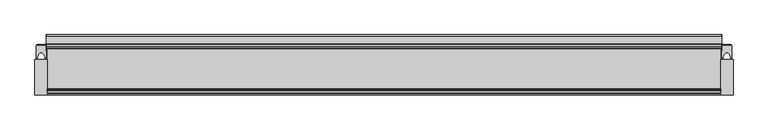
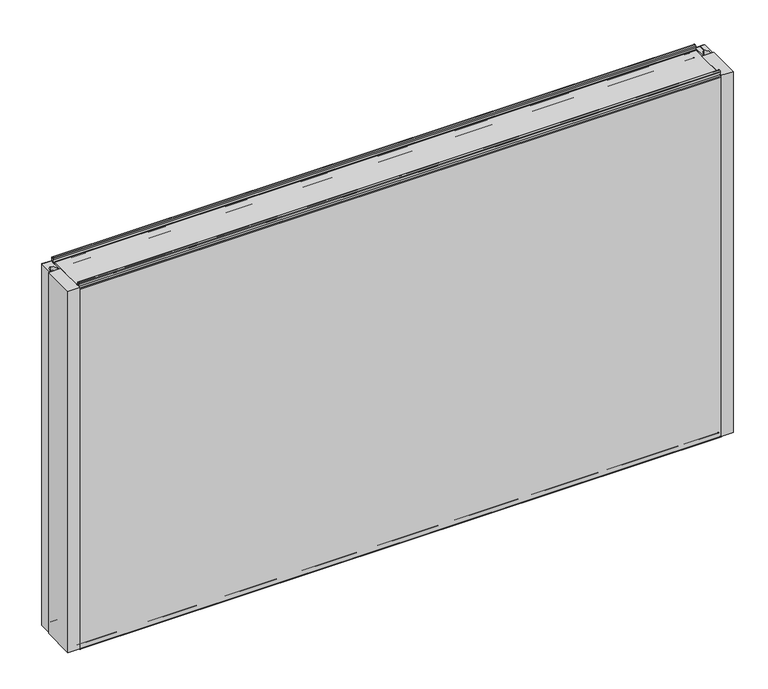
"""IFC4 building model written with IfcOpenShell, lengths in millimetres: plate geometry, Fronttop : Fronttop 150/1000."""

from ifc_helpers import new_model, si_unit, point, frame, frame_2d, origin, origin_with_axes, place, context, project, spatial, polyline, circle_curve, trimmed, segment, composite_curve, outline, extrude, source, transform, mapped, element, save
from ifc_brep_helpers import plane_surface, cylinder_surface, revolved_surface, advanced_brep


def plate_779b74dc(model_context):
    return source(origin(), model_context, "Body", "SolidModel", [
        advanced_brep(
        [(-841.5, 124.0, 1008.0), (-841.5, 121.0, 1008.0), (-841.5, 121.0, 1004.0), (-841.5, 117.0, 1000.0), (-841.5, 115.0, 1000.0), (-841.5, 115.0, 1001.0), (-841.5, 117.0, 1001.0), (-841.5, 120.0, 1004.0), (-841.5, 120.0, 1008.0), (-841.5, 125.0, 1008.0), (-841.5, 125.0, 1000.0), (-841.5, 124.0, 1000.0), (841.5, 125.0, 1008.0), (841.5, 120.0, 1008.0), (841.5, 120.0, 1004.0), (841.5, 117.0, 1001.0), (841.5, 115.0, 1001.0), (841.5, 115.0, 1000.0), (841.5, 117.0, 1000.0), (841.5, 121.0, 1004.0), (841.5, 121.0, 1008.0), (841.5, 124.0, 1008.0), (841.5, 124.0, 1000.0), (841.5, 125.0, 1000.0), (-841.5, 117.0, 2.0), (841.5, 117.0, 2.0), (841.5, 115.0, 2.0), (-841.5, 115.0, 2.0), (-841.5, 119.0, 4.0), (841.5, 119.0, 4.0), (-841.5, 119.0, 8.0), (841.5, 119.0, 8.0), (-841.5, 126.0, 8.0), (841.5, 126.0, 8.0), (-841.5, 126.0, 0.0), (841.5, 126.0, 0.0), (-841.5, 129.0, -3.0), (841.5, 129.0, -3.0), (-841.5, 125.0, -3.0), (-842.5, 125.0, -3.0), (-842.5, 147.0, -3.0), (-841.5, 147.0, -3.0), (841.5, 147.0, -3.0), (842.5, 147.0, -3.0), (842.5, 125.0, -3.0), (841.5, 125.0, -3.0), (-841.5, 150.0, 0.0), (841.5, 150.0, 0.0), (-842.5, 150.0, 0.0), (-842.5, 150.0, 969.0), (-841.5, 150.0, 969.0), (841.5, 150.0, 969.0), (842.5, 150.0, 969.0), (842.5, 150.0, 0.0), (-841.5, 147.0, 972.0), (841.5, 147.0, 972.0), (-842.5, 147.0, 972.0), (-842.5, 128.0, 972.0), (-841.5, 128.0, 972.0), (841.5, 128.0, 972.0), (842.5, 128.0, 972.0), (842.5, 147.0, 972.0), (-841.5, 125.0, 975.0), (841.5, 125.0, 975.0), (-842.5, 125.0, 975.0), (-842.5, 125.0, 1000.0), (842.5, 125.0, 1000.0), (842.5, 125.0, 975.0), (-841.5, 124.0, 975.0), (841.5, 124.0, 975.0), (-841.5, 128.0, 971.0), (841.5, 128.0, 971.0), (-841.5, 147.0, 971.0), (841.5, 147.0, 971.0), (-841.5, 149.0, 969.0), (841.5, 149.0, 969.0), (-841.5, 149.0, 0.0), (841.5, 149.0, 0.0), (-841.5, 147.0, -2.0), (841.5, 147.0, -2.0), (-841.5, 129.0, -2.0), (841.5, 129.0, -2.0), (-841.5, 127.0, 0.0), (841.5, 127.0, 0.0), (-841.5, 127.0, 8.0), (841.5, 127.0, 8.0), (-841.5, 118.0, 8.0), (841.5, 118.0, 8.0), (-841.5, 118.0, 4.0), (841.5, 118.0, 4.0), (-841.5, 117.0, 3.0), (841.5, 117.0, 3.0), (-841.5, 115.0, 3.0), (841.5, 115.0, 3.0), (842.5, 110.0, 1000.0), (842.5, 110.0, 0.0), (842.5, 125.0, 0.0), (841.5, 125.0, 0.0), (841.5, 110.0, 0.0), (841.5, 110.0, 1000.0), (-842.5, 125.0, 0.0), (-842.5, 110.0, 0.0), (-842.5, 110.0, 1000.0), (-841.5, 110.0, 1000.0), (-841.5, 110.0, 0.0), (-841.5, 125.0, 0.0)],
        [
            (0, 1, circle_curve(frame((-841.5, 122.5, 1008.0), z_axis=(1.0, 0.0, 0.0), x_axis=(0.0, -1.0, 0.0)), 1.5)),
            (1, 2),
            (2, 3, circle_curve(frame((-841.5, 117.0, 1004.0), z_axis=(-1.0, 0.0, 0.0), x_axis=(0.0, -1.0, 0.0)), 4.0)),
            (3, 4),
            (4, 5),
            (5, 6),
            (6, 7, circle_curve(frame((-841.5, 117.0, 1004.0), z_axis=(1.0, 0.0, 0.0), x_axis=(0.0, -1.0, 0.0)), 3.0)),
            (7, 8),
            (8, 9, circle_curve(frame((-841.5, 122.5, 1008.0), z_axis=(-1.0, 0.0, 0.0), x_axis=(0.0, -1.0, 0.0)), 2.5)),
            (9, 10),
            (10, 11),
            (11, 0),
            (12, 13, circle_curve(frame((841.5, 122.5, 1008.0), z_axis=(1.0, 0.0, 0.0), x_axis=(0.0, -1.0, 0.0)), 2.5)),
            (13, 14),
            (14, 15, circle_curve(frame((841.5, 117.0, 1004.0), z_axis=(-1.0, 0.0, 0.0), x_axis=(0.0, -1.0, 0.0)), 3.0)),
            (15, 16),
            (16, 17),
            (17, 18),
            (18, 19, circle_curve(frame((841.5, 117.0, 1004.0), z_axis=(1.0, 0.0, 0.0), x_axis=(0.0, -1.0, 0.0)), 4.0)),
            (19, 20),
            (20, 21, circle_curve(frame((841.5, 122.5, 1008.0), z_axis=(-1.0, 0.0, 0.0), x_axis=(0.0, -1.0, 0.0)), 1.5)),
            (21, 22),
            (22, 23),
            (23, 12),
            (24, 25),
            (25, 26),
            (26, 27),
            (27, 24),
            (24, 28, circle_curve(frame((-841.5, 117.0, 4.0), z_axis=(1.0, 0.0, 0.0), x_axis=(0.0, -1.0, 0.0)), 2.0)),
            (28, 29),
            (29, 25, circle_curve(frame((841.5, 117.0, 4.0), z_axis=(-1.0, 0.0, 0.0), x_axis=(0.0, -1.0, 0.0)), 2.0)),
            (28, 30),
            (30, 31),
            (31, 29),
            (30, 32, circle_curve(frame((-841.5, 122.5, 8.0), z_axis=(-1.0, 0.0, 0.0), x_axis=(0.0, -1.0, 0.0)), 3.5)),
            (32, 33),
            (33, 31, circle_curve(frame((841.5, 122.5, 8.0), z_axis=(1.0, 0.0, 0.0), x_axis=(0.0, -1.0, 0.0)), 3.5)),
            (32, 34),
            (34, 35),
            (35, 33),
            (34, 36, circle_curve(frame((-841.5, 129.0, 0.0), z_axis=(1.0, 0.0, 0.0), x_axis=(0.0, -1.0, 0.0)), 3.0)),
            (36, 37),
            (37, 35, circle_curve(frame((841.5, 129.0, 0.0), z_axis=(-1.0, 0.0, 0.0), x_axis=(0.0, -1.0, 0.0)), 3.0)),
            (36, 38),
            (38, 39),
            (39, 40),
            (40, 41),
            (41, 42),
            (42, 43),
            (43, 44),
            (44, 45),
            (45, 37),
            (41, 46, circle_curve(frame((-841.5, 147.0, 0.0), z_axis=(1.0, 0.0, 0.0), x_axis=(0.0, -1.0, 0.0)), 3.0)),
            (46, 47),
            (47, 42, circle_curve(frame((841.5, 147.0, 0.0), z_axis=(-1.0, 0.0, 0.0), x_axis=(0.0, -1.0, 0.0)), 3.0)),
            (46, 48),
            (48, 49),
            (49, 50),
            (50, 51),
            (51, 52),
            (52, 53),
            (53, 47),
            (50, 54, circle_curve(frame((-841.5, 147.0, 969.0), z_axis=(1.0, 0.0, 0.0), x_axis=(0.0, -1.0, 0.0)), 3.0)),
            (54, 55),
            (55, 51, circle_curve(frame((841.5, 147.0, 969.0), z_axis=(-1.0, 0.0, 0.0), x_axis=(0.0, -1.0, 0.0)), 3.0)),
            (54, 56),
            (56, 57),
            (57, 58),
            (58, 59),
            (59, 60),
            (60, 61),
            (61, 55),
            (58, 62, circle_curve(frame((-841.5, 128.0, 975.0), z_axis=(-1.0, 0.0, 0.0), x_axis=(0.0, -1.0, 0.0)), 3.0)),
            (62, 63),
            (63, 59, circle_curve(frame((841.5, 128.0, 975.0), z_axis=(1.0, 0.0, 0.0), x_axis=(0.0, -1.0, 0.0)), 3.0)),
            (62, 64),
            (64, 65),
            (65, 10),
            (9, 12),
            (23, 66),
            (66, 67),
            (67, 63),
            (8, 13),
            (7, 14),
            (6, 15),
            (5, 16),
            (4, 17),
            (4, 3),
            (3, 18),
            (18, 17),
            (2, 19),
            (1, 20),
            (0, 21),
            (11, 68),
            (68, 69),
            (69, 22),
            (68, 70, circle_curve(frame((-841.5, 128.0, 975.0), z_axis=(1.0, 0.0, 0.0), x_axis=(0.0, -1.0, 0.0)), 4.0)),
            (70, 71),
            (71, 69, circle_curve(frame((841.5, 128.0, 975.0), z_axis=(-1.0, 0.0, 0.0), x_axis=(0.0, -1.0, 0.0)), 4.0)),
            (70, 72),
            (72, 73),
            (73, 71),
            (72, 74, circle_curve(frame((-841.5, 147.0, 969.0), z_axis=(-1.0, 0.0, 0.0), x_axis=(0.0, -1.0, 0.0)), 2.0)),
            (74, 75),
            (75, 73, circle_curve(frame((841.5, 147.0, 969.0), z_axis=(1.0, 0.0, 0.0), x_axis=(0.0, -1.0, 0.0)), 2.0)),
            (74, 76),
            (76, 77),
            (77, 75),
            (76, 78, circle_curve(frame((-841.5, 147.0, 0.0), z_axis=(-1.0, 0.0, 0.0), x_axis=(0.0, -1.0, 0.0)), 2.0)),
            (78, 79),
            (79, 77, circle_curve(frame((841.5, 147.0, 0.0), z_axis=(1.0, 0.0, 0.0), x_axis=(0.0, -1.0, 0.0)), 2.0)),
            (78, 80),
            (80, 81),
            (81, 79),
            (80, 82, circle_curve(frame((-841.5, 129.0, 0.0), z_axis=(-1.0, 0.0, 0.0), x_axis=(0.0, -1.0, 0.0)), 2.0)),
            (82, 83),
            (83, 81, circle_curve(frame((841.5, 129.0, 0.0), z_axis=(1.0, 0.0, 0.0), x_axis=(0.0, -1.0, 0.0)), 2.0)),
            (82, 84),
            (84, 85),
            (85, 83),
            (84, 86, circle_curve(frame((-841.5, 122.5, 8.0), z_axis=(1.0, 0.0, 0.0), x_axis=(0.0, -1.0, 0.0)), 4.5)),
            (86, 87),
            (87, 85, circle_curve(frame((841.5, 122.5, 8.0), z_axis=(-1.0, 0.0, 0.0), x_axis=(0.0, -1.0, 0.0)), 4.5)),
            (86, 88),
            (88, 89),
            (89, 87),
            (88, 90, circle_curve(frame((-841.5, 117.0, 4.0), z_axis=(-1.0, 0.0, 0.0), x_axis=(0.0, -1.0, 0.0)), 1.0)),
            (90, 91),
            (91, 89, circle_curve(frame((841.5, 117.0, 4.0), z_axis=(1.0, 0.0, 0.0), x_axis=(0.0, -1.0, 0.0)), 1.0)),
            (90, 92),
            (92, 93),
            (93, 91),
            (26, 93),
            (92, 27),
            (66, 94),
            (94, 95),
            (95, 96),
            (96, 44),
            (43, 53, circle_curve(frame((842.5, 147.0, 0.0), z_axis=(1.0, 0.0, 0.0), x_axis=(0.0, 1.0, 0.0)), 3.0)),
            (52, 61, circle_curve(frame((842.5, 147.0, 969.0), z_axis=(1.0, 0.0, 0.0), x_axis=(0.0, 1.0, 0.0)), 3.0)),
            (60, 67, circle_curve(frame((842.5, 128.0, 975.0), z_axis=(-1.0, 0.0, 0.0), x_axis=(0.0, 1.0, 0.0)), 3.0)),
            (45, 97),
            (97, 98),
            (98, 99),
            (99, 17),
            (18, 22),
            (99, 94),
            (98, 95),
            (97, 96),
            (64, 57, circle_curve(frame((-842.5, 128.0, 975.0), z_axis=(1.0, 0.0, 0.0), x_axis=(0.0, 1.0, 0.0)), 3.0)),
            (56, 49, circle_curve(frame((-842.5, 147.0, 969.0), z_axis=(-1.0, 0.0, 0.0), x_axis=(0.0, 1.0, 0.0)), 3.0)),
            (48, 40, circle_curve(frame((-842.5, 147.0, 0.0), z_axis=(-1.0, 0.0, 0.0), x_axis=(0.0, 1.0, 0.0)), 3.0)),
            (39, 100),
            (100, 101),
            (101, 102),
            (102, 65),
            (103, 104),
            (104, 105),
            (105, 38),
            (11, 3),
            (4, 103),
            (102, 103),
            (101, 104),
            (100, 105),
        ],
        [
            plane_surface(frame((-841.5, 0.0, 0.0), z_axis=(-1.0, 0.0, 0.0), x_axis=(0.0, 0.0, 1.0))),
            plane_surface(frame((841.5, 0.0, 0.0), z_axis=(1.0, 0.0, 0.0), x_axis=(0.0, 0.0, 1.0))),
            plane_surface(frame((-841.5, 117.0, 2.0), z_axis=(0.0, 0.0, -1.0), x_axis=(1.0, 0.0, 0.0))),
            cylinder_surface(frame((-841.5, 117.0, 4.0), z_axis=(-1.0, 0.0, 0.0), x_axis=(0.0, -1.0, 0.0)), 2.0),
            plane_surface(frame((-841.5, 119.0, 8.0), z_axis=(0.0, 1.0, 0.0), x_axis=(1.0, 0.0, 0.0))),
            revolved_surface(polyline([(841.5, 119.0, 8.0), (-841.5, 119.0, 8.0)]), (-841.5, 122.5, 8.0), (1.0, 0.0, 0.0)),
            plane_surface(frame((-841.5, 126.0, 0.0), z_axis=(0.0, -1.0, 0.0), x_axis=(1.0, 0.0, 0.0))),
            cylinder_surface(frame((-841.5, 129.0, 0.0), z_axis=(-1.0, 0.0, 0.0), x_axis=(0.0, -1.0, 0.0)), 3.0),
            plane_surface(frame((-841.5, 147.0, -3.0), z_axis=(0.0, 0.0, -1.0), x_axis=(1.0, 0.0, 0.0))),
            cylinder_surface(frame((-841.5, 147.0, 0.0), z_axis=(-1.0, 0.0, 0.0), x_axis=(0.0, -1.0, 0.0)), 3.0),
            plane_surface(frame((-841.5, 150.0, 969.0), z_axis=(0.0, 1.0, 0.0), x_axis=(1.0, 0.0, 0.0))),
            cylinder_surface(frame((-841.5, 147.0, 969.0), z_axis=(-1.0, 0.0, 0.0), x_axis=(0.0, -1.0, 0.0)), 3.0),
            plane_surface(frame((-841.5, 128.0, 972.0), z_axis=(0.0, 0.0, 1.0), x_axis=(1.0, 0.0, 0.0))),
            revolved_surface(polyline([(841.5, 125.0, 975.0), (-841.5, 125.0, 975.0)]), (-841.5, 128.0, 975.0), (1.0, 0.0, 0.0)),
            plane_surface(frame((-841.5, 125.0, 1008.0), z_axis=(0.0, 1.0, 0.0), x_axis=(1.0, 0.0, 0.0))),
            cylinder_surface(frame((-841.5, 122.5, 1008.0), z_axis=(-1.0, 0.0, 0.0), x_axis=(0.0, -1.0, 0.0)), 2.5),
            plane_surface(frame((-841.5, 120.0, 1004.0), z_axis=(0.0, -1.0, 0.0), x_axis=(1.0, 0.0, 0.0))),
            revolved_surface(polyline([(841.5, 114.0, 1004.0), (-841.5, 114.0, 1004.0)]), (-841.5, 117.0, 1004.0), (1.0, 0.0, 0.0)),
            plane_surface(frame((-841.5, 115.0, 1001.0), z_axis=(0.0, 0.0, 1.0), x_axis=(1.0, 0.0, 0.0))),
            plane_surface(frame((-841.5, 115.0, 1000.0), z_axis=(0.0, -1.0, 0.0), x_axis=(1.0, 0.0, 0.0))),
            plane_surface(frame((-841.5, 117.0, 1000.0), z_axis=(0.0, 0.0, -1.0), x_axis=(1.0, 0.0, 0.0))),
            cylinder_surface(frame((-841.5, 117.0, 1004.0), z_axis=(-1.0, 0.0, 0.0), x_axis=(0.0, -1.0, 0.0)), 4.0),
            plane_surface(frame((-841.5, 121.0, 1008.0), z_axis=(0.0, 1.0, 0.0), x_axis=(1.0, 0.0, 0.0))),
            revolved_surface(polyline([(841.5, 121.0, 1008.0), (-841.5, 121.0, 1008.0)]), (-841.5, 122.5, 1008.0), (1.0, 0.0, 0.0)),
            plane_surface(frame((-841.5, 124.0, 975.0), z_axis=(0.0, -1.0, 0.0), x_axis=(1.0, 0.0, 0.0))),
            cylinder_surface(frame((-841.5, 128.0, 975.0), z_axis=(-1.0, 0.0, 0.0), x_axis=(0.0, -1.0, 0.0)), 4.0),
            plane_surface(frame((-841.5, 147.0, 971.0), z_axis=(0.0, 0.0, -1.0), x_axis=(1.0, 0.0, 0.0))),
            revolved_surface(polyline([(841.5, 145.0, 969.0), (-841.5, 145.0, 969.0)]), (-841.5, 147.0, 969.0), (1.0, 0.0, 0.0)),
            plane_surface(frame((-841.5, 149.0, 0.0), z_axis=(0.0, -1.0, 0.0), x_axis=(1.0, 0.0, 0.0))),
            revolved_surface(polyline([(841.5, 145.0, 0.0), (-841.5, 145.0, 0.0)]), (-841.5, 147.0, 0.0), (1.0, 0.0, 0.0)),
            plane_surface(frame((-841.5, 129.0, -2.0), z_axis=(0.0, 0.0, 1.0), x_axis=(1.0, 0.0, 0.0))),
            revolved_surface(polyline([(841.5, 127.0, 0.0), (-841.5, 127.0, 0.0)]), (-841.5, 129.0, 0.0), (1.0, 0.0, 0.0)),
            plane_surface(frame((-841.5, 127.0, 8.0), z_axis=(0.0, 1.0, 0.0), x_axis=(1.0, 0.0, 0.0))),
            cylinder_surface(frame((-841.5, 122.5, 8.0), z_axis=(-1.0, 0.0, 0.0), x_axis=(0.0, -1.0, 0.0)), 4.5),
            plane_surface(frame((-841.5, 118.0, 4.0), z_axis=(0.0, -1.0, 0.0), x_axis=(1.0, 0.0, 0.0))),
            revolved_surface(polyline([(841.5, 116.0, 4.0), (-841.5, 116.0, 4.0)]), (-841.5, 117.0, 4.0), (1.0, 0.0, 0.0)),
            plane_surface(frame((-841.5, 115.0, 3.0), z_axis=(0.0, 0.0, 1.0), x_axis=(1.0, 0.0, 0.0))),
            plane_surface(frame((-841.5, 115.0, 2.0), z_axis=(0.0, -1.0, 0.0), x_axis=(1.0, 0.0, 0.0))),
            plane_surface(frame((842.5, 125.0, 1000.0), z_axis=(1.0, 0.0, 0.0), x_axis=(0.0, -1.0, 0.0))),
            plane_surface(frame((841.5, 125.0, 1000.0), z_axis=(-1.0, 0.0, 0.0), x_axis=(0.0, 1.0, 0.0))),
            plane_surface(frame((842.5, 125.0, 1000.0), z_axis=(0.0, 0.0, 1.0), x_axis=(-1.0, 0.0, 0.0))),
            plane_surface(frame((842.5, 110.0, 1000.0), z_axis=(0.0, -1.0, 0.0), x_axis=(-1.0, 0.0, 0.0))),
            plane_surface(frame((842.5, 110.0, 0.0), z_axis=(0.0, 0.0, -1.0), x_axis=(-1.0, 0.0, 0.0))),
            cylinder_surface(frame((841.5, 147.0, 0.0), z_axis=(1.0, 0.0, 0.0), x_axis=(0.0, 1.0, 0.0)), 3.0),
            cylinder_surface(frame((841.5, 147.0, 969.0), z_axis=(1.0, 0.0, 0.0), x_axis=(0.0, 1.0, 0.0)), 3.0),
            revolved_surface(polyline([(841.5, 131.0, 975.0), (842.5, 131.0, 975.0)]), (841.5, 128.0, 975.0), (-1.0, 0.0, 0.0)),
            plane_surface(frame((-842.5, 125.0, 1000.0), z_axis=(-1.0, 0.0, 0.0), x_axis=(0.0, 1.0, 0.0))),
            plane_surface(frame((-841.5, 125.0, 1000.0), z_axis=(1.0, 0.0, 0.0), x_axis=(0.0, -1.0, 0.0))),
            plane_surface(frame((-841.5, 125.0, 1000.0), z_axis=(0.0, 0.0, 1.0), x_axis=(-1.0, 0.0, 0.0))),
            plane_surface(frame((-841.5, 110.0, 1000.0), z_axis=(0.0, -1.0, 0.0), x_axis=(-1.0, 0.0, 0.0))),
            plane_surface(frame((-841.5, 110.0, 0.0), z_axis=(0.0, 0.0, -1.0), x_axis=(-1.0, 0.0, 0.0))),
            cylinder_surface(frame((-842.5, 147.0, 0.0), z_axis=(1.0, 0.0, 0.0), x_axis=(0.0, 1.0, 0.0)), 3.0),
            cylinder_surface(frame((-842.5, 147.0, 969.0), z_axis=(1.0, 0.0, 0.0), x_axis=(0.0, 1.0, 0.0)), 3.0),
            revolved_surface(polyline([(-842.5, 131.0, 975.0), (-841.5, 131.0, 975.0)]), (-842.5, 128.0, 975.0), (-1.0, 0.0, 0.0)),
            plane_surface(frame((842.5, 125.0, 0.0), z_axis=(0.0, -1.0, 0.0), x_axis=(-1.0, 0.0, 0.0))),
            plane_surface(frame((-841.5, 125.0, 0.0), z_axis=(0.0, -1.0, 0.0), x_axis=(-1.0, 0.0, 0.0))),
        ],
        [
            (0, [[1, 2, 3, 4, 5, 6, 7, 8, 9, 10, 11, 12]]),
            (1, [[13, 14, 15, 16, 17, 18, 19, 20, 21, 22, 23, 24]]),
            (2, [[25, 26, 27, 28]]),
            (3, [[-25, 29, 30, 31]]),
            (4, [[-30, 32, 33, 34]]),
            (5, [[-33, 35, 36, 37]]),
            (6, [[-36, 38, 39, 40]]),
            (7, [[-39, 41, 42, 43]]),
            (8, [[-42, 44, 45, 46, 47, 48, 49, 50, 51, 52]]),
            (9, [[-48, 53, 54, 55]]),
            (10, [[-54, 56, 57, 58, 59, 60, 61, 62]]),
            (11, [[-59, 63, 64, 65]]),
            (12, [[-64, 66, 67, 68, 69, 70, 71, 72]]),
            (13, [[-69, 73, 74, 75]]),
            (14, [[-74, 76, 77, 78, -10, 79, -24, 80, 81, 82]]),
            (15, [[-9, 83, -13, -79]]),
            (16, [[-8, 84, -14, -83]]),
            (17, [[-7, 85, -15, -84]]),
            (18, [[-6, 86, -16, -85]]),
            (19, [[-5, 87, -17, -86]]),
            (20, [[-87, 88, 89, 90]]),
            (21, [[-3, 91, -19, -89]]),
            (22, [[-2, 92, -20, -91]]),
            (23, [[-1, 93, -21, -92]]),
            (24, [[-93, -12, 94, 95, 96, -22]]),
            (25, [[-95, 97, 98, 99]]),
            (26, [[-98, 100, 101, 102]]),
            (27, [[-101, 103, 104, 105]]),
            (28, [[-104, 106, 107, 108]]),
            (29, [[-107, 109, 110, 111]]),
            (30, [[-110, 112, 113, 114]]),
            (31, [[-113, 115, 116, 117]]),
            (32, [[-116, 118, 119, 120]]),
            (33, [[-119, 121, 122, 123]]),
            (34, [[-122, 124, 125, 126]]),
            (35, [[-125, 127, 128, 129]]),
            (36, [[-128, 130, 131, 132]]),
            (37, [[-27, 133, -131, 134]]),
            (38, [[135, 136, 137, 138, -50, 139, -61, 140, -71, 141, -81]]),
            (39, [[142, 143, 144, 145, -90, 146, -96, -99, -102, -105, -108, -111, -114, -117, -120, -123, -126, -129, -132, -133, -26, -31, -34, -37, -40, -43, -52]]),
            (40, [[-135, -80, -23, -146, -18, -145, 147]]),
            (41, [[-136, -147, -144, 148]]),
            (42, [[-137, -148, -143, 149]]),
            (43, [[-139, -49, -55, -62]]),
            (44, [[-140, -60, -65, -72]]),
            (45, [[-141, -70, -75, -82]]),
            (46, [[-77, 150, -67, 151, -57, 152, -46, 153, 154, 155, 156]]),
            (47, [[157, 158, 159, -44, -41, -38, -35, -32, -29, -28, -134, -130, -127, -124, -121, -118, -115, -112, -109, -106, -103, -100, -97, -94, 160, -88, 161]]),
            (48, [[-156, 162, -161, -4, -160, -11, -78]]),
            (49, [[-155, 163, -157, -162]]),
            (50, [[-154, 164, -158, -163]]),
            (51, [[-152, -56, -53, -47]]),
            (52, [[-151, -66, -63, -58]]),
            (53, [[-150, -76, -73, -68]]),
            (54, [[-138, -149, -142, -51]]),
            (55, [[-153, -45, -159, -164]]),
        ],
    ),
        extrude(outline(composite_curve([segment(polyline([(-867.5001545, 123.5), (-855.75, 123.5), (-855.75, 107.5), (-854.25, 107.5), (-854.25, 123.5), (-842.4998455, 123.5), (-842.4998455, 90.0), (-845.25, 90.0), (-845.25, 92.5)]), True, "CONTINUOUS"), segment(trimmed(circle_curve(frame_2d((-863.0338021, 89.3183984)), 18.0661619), [point((-845.25, 92.5))], [point((-855.0, 105.5))], True, "CARTESIAN"), True, "CONTINUOUS"), segment(trimmed(circle_curve(frame_2d((-846.9661979, 89.3183984)), 18.0661619), [point((-855.0, 105.5))], [point((-864.75, 92.5))], True, "CARTESIAN"), True, "CONTINUOUS"), segment(polyline([(-864.75, 92.5), (-864.75, 90.0), (-867.5001545, 90.0), (-867.5001545, 123.5)]), True, "CONTINUOUS")], self_intersect=False)), origin_with_axes(), (0.0, 0.0, 1.0), 1000.0),
        extrude(outline(polyline([(-839.5, 0.0), (-870.5, 0.0), (-870.5, 88.0), (-839.5, 88.0), (-839.5, 0.0)])), origin_with_axes(), (0.0, 0.0, 1.0), 1000.0),
        extrude(outline(polyline([(-866.5051154, 125.0), (-843.4948846, 125.0), (-843.4948846, 123.5), (-854.3497504, 123.5), (-854.3497504, 109.0759655), (-855.65, 109.0759655), (-855.65, 123.5), (-866.5051154, 123.5), (-866.5051154, 125.0)])), origin_with_axes(), (0.0, 0.0, 1.0), 1000.0),
        extrude(outline(composite_curve([segment(polyline([(842.4998455, 123.5), (854.25, 123.5), (854.25, 107.5), (855.75, 107.5), (855.75, 123.5), (867.5001545, 123.5), (867.5001545, 90.0), (864.75, 90.0), (864.75, 92.5)]), True, "CONTINUOUS"), segment(trimmed(circle_curve(frame_2d((846.9661979, 89.3183984)), 18.0661619), [point((864.75, 92.5))], [point((855.0, 105.5))], True, "CARTESIAN"), True, "CONTINUOUS"), segment(trimmed(circle_curve(frame_2d((863.0338021, 89.3183984)), 18.0661619), [point((855.0, 105.5))], [point((845.25, 92.5))], True, "CARTESIAN"), True, "CONTINUOUS"), segment(polyline([(845.25, 92.5), (845.25, 90.0), (842.4998455, 90.0), (842.4998455, 123.5)]), True, "CONTINUOUS")], self_intersect=False)), origin_with_axes(), (0.0, 0.0, 1.0), 1000.0),
        extrude(outline(polyline([(870.5, 0.0), (839.5, 0.0), (839.5, 88.0), (870.5, 88.0), (870.5, 0.0)])), origin_with_axes(), (0.0, 0.0, 1.0), 1000.0),
        extrude(outline(polyline([(843.4948846, 125.0), (866.5051154, 125.0), (866.5051154, 123.5), (855.6502496, 123.5), (855.6502496, 109.0759655), (854.35, 109.0759655), (854.35, 123.5), (843.4948846, 123.5), (843.4948846, 125.0)])), origin_with_axes(), (0.0, 0.0, 1.0), 1000.0),
        advanced_brep(
        [(-839.5, 13.0, 1001.0), (-839.5, 15.0, 1001.0), (-839.5, 15.0, 1000.0), (-839.5, 13.0, 1000.0), (-839.5, 9.0, 1004.0), (-839.5, 9.0, 1008.0), (-839.5, 6.0, 1008.0), (-839.5, 6.0, 999.5), (-839.5, 2.1134897, 996.0214069), (-839.5, 1.0, 995.0), (-839.5, 1.0, -0.5), (-839.5, 3.0, -0.5), (-839.5, 3.0, 8.0), (-839.5, 12.0, 8.0), (-839.5, 12.0, 4.0), (-839.5, 13.0, 3.0), (-839.5, 15.0, 3.0), (-839.5, 15.0, 2.0), (-839.5, 13.0, 2.0), (-839.5, 11.0, 4.0), (-839.5, 11.0, 8.0), (-839.5, 4.0, 8.0), (-839.5, 4.0, -0.5), (-839.5, 0.0, -0.5), (-839.5, 0.0, 995.0), (-839.5, 2.220863, 996.9877675), (-839.5, 5.0, 999.5), (-839.5, 5.0, 1008.0), (-839.5, 10.0, 1008.0), (-839.5, 10.0, 1004.0), (839.5, 13.0, 1001.0), (839.5, 10.0, 1004.0), (839.5, 10.0, 1008.0), (839.5, 5.0, 1008.0), (839.5, 5.0, 999.5), (839.5, 2.2239212, 997.0152907), (839.5, 0.0, 995.0), (839.5, 0.0, -0.5), (839.5, 4.0, -0.5), (839.5, 4.0, 8.0), (839.5, 11.0, 8.0), (839.5, 11.0, 4.0), (839.5, 13.0, 2.0), (839.5, 15.0, 2.0), (839.5, 15.0, 3.0), (839.5, 13.0, 3.0), (839.5, 12.0, 4.0), (839.5, 12.0, 8.0), (839.5, 3.0, 8.0), (839.5, 3.0, -0.5), (839.5, 1.0, -0.5), (839.5, 1.0, 995.0), (839.5, 2.1104315, 995.9938837), (839.5, 6.0, 999.5), (839.5, 6.0, 1008.0), (839.5, 9.0, 1008.0), (839.5, 9.0, 1004.0), (839.5, 13.0, 1000.0), (839.5, 15.0, 1000.0), (839.5, 15.0, 1001.0)],
        [
            (0, 1),
            (1, 2),
            (2, 3),
            (3, 4, circle_curve(frame((-839.5, 13.0, 1004.0), z_axis=(-1.0, 0.0, 0.0), x_axis=(0.0, -1.0, 0.0)), 4.0)),
            (4, 5),
            (5, 6, circle_curve(frame((-839.5, 7.5, 1008.0), z_axis=(1.0, 0.0, 0.0), x_axis=(0.0, -1.0, 0.0)), 1.5)),
            (6, 7),
            (7, 8, circle_curve(frame((-839.5, 2.5, 999.5), z_axis=(-1.0, 0.0, 0.0), x_axis=(0.0, -1.0, 0.0)), 3.5)),
            (8, 9, circle_curve(frame((-839.5, 2.0, 995.0), z_axis=(1.0, 0.0, 0.0), x_axis=(0.0, -1.0, 0.0)), 1.0)),
            (9, 10),
            (10, 11, circle_curve(frame((-839.5, 2.0, -0.5), z_axis=(1.0, 0.0, 0.0), x_axis=(0.0, -1.0, 0.0)), 1.0)),
            (11, 12),
            (12, 13, circle_curve(frame((-839.5, 7.5, 8.0), z_axis=(-1.0, 0.0, 0.0), x_axis=(0.0, -1.0, 0.0)), 4.5)),
            (13, 14),
            (14, 15, circle_curve(frame((-839.5, 13.0, 4.0), z_axis=(1.0, 0.0, 0.0), x_axis=(0.0, -1.0, 0.0)), 1.0)),
            (15, 16),
            (16, 17),
            (17, 18),
            (18, 19, circle_curve(frame((-839.5, 13.0, 4.0), z_axis=(-1.0, 0.0, 0.0), x_axis=(0.0, -1.0, 0.0)), 2.0)),
            (19, 20),
            (20, 21, circle_curve(frame((-839.5, 7.5, 8.0), z_axis=(1.0, 0.0, 0.0), x_axis=(0.0, -1.0, 0.0)), 3.5)),
            (21, 22),
            (22, 23, circle_curve(frame((-839.5, 2.0, -0.5), z_axis=(-1.0, 0.0, 0.0), x_axis=(0.0, -1.0, 0.0)), 2.0)),
            (23, 24),
            (24, 25, circle_curve(frame((-839.5, 2.0, 995.0), z_axis=(-1.0, 0.0, 0.0), x_axis=(0.0, -1.0, 0.0)), 2.0)),
            (25, 26, circle_curve(frame((-839.5, 2.5, 999.5), z_axis=(1.0, 0.0, 0.0), x_axis=(0.0, -1.0, 0.0)), 2.5)),
            (26, 27),
            (27, 28, circle_curve(frame((-839.5, 7.5, 1008.0), z_axis=(-1.0, 0.0, 0.0), x_axis=(0.0, -1.0, 0.0)), 2.5)),
            (28, 29),
            (29, 0, circle_curve(frame((-839.5, 13.0, 1004.0), z_axis=(1.0, 0.0, 0.0), x_axis=(0.0, -1.0, 0.0)), 3.0)),
            (30, 31, circle_curve(frame((839.5, 13.0, 1004.0), z_axis=(-1.0, 0.0, 0.0), x_axis=(0.0, -1.0, 0.0)), 3.0)),
            (31, 32),
            (32, 33, circle_curve(frame((839.5, 7.5, 1008.0), z_axis=(1.0, 0.0, 0.0), x_axis=(0.0, -1.0, 0.0)), 2.5)),
            (33, 34),
            (34, 35, circle_curve(frame((839.5, 2.5, 999.5), z_axis=(-1.0, 0.0, 0.0), x_axis=(0.0, -1.0, 0.0)), 2.5)),
            (35, 36, circle_curve(frame((839.5, 2.0, 995.0), z_axis=(1.0, 0.0, 0.0), x_axis=(0.0, -1.0, 0.0)), 2.0)),
            (36, 37),
            (37, 38, circle_curve(frame((839.5, 2.0, -0.5), z_axis=(1.0, 0.0, 0.0), x_axis=(0.0, -1.0, 0.0)), 2.0)),
            (38, 39),
            (39, 40, circle_curve(frame((839.5, 7.5, 8.0), z_axis=(-1.0, 0.0, 0.0), x_axis=(0.0, -1.0, 0.0)), 3.5)),
            (40, 41),
            (41, 42, circle_curve(frame((839.5, 13.0, 4.0), z_axis=(1.0, 0.0, 0.0), x_axis=(0.0, -1.0, 0.0)), 2.0)),
            (42, 43),
            (43, 44),
            (44, 45),
            (45, 46, circle_curve(frame((839.5, 13.0, 4.0), z_axis=(-1.0, 0.0, 0.0), x_axis=(0.0, -1.0, 0.0)), 1.0)),
            (46, 47),
            (47, 48, circle_curve(frame((839.5, 7.5, 8.0), z_axis=(1.0, 0.0, 0.0), x_axis=(0.0, -1.0, 0.0)), 4.5)),
            (48, 49),
            (49, 50, circle_curve(frame((839.5, 2.0, -0.5), z_axis=(-1.0, 0.0, 0.0), x_axis=(0.0, -1.0, 0.0)), 1.0)),
            (50, 51),
            (51, 52, circle_curve(frame((839.5, 2.0, 995.0), z_axis=(-1.0, 0.0, 0.0), x_axis=(0.0, -1.0, 0.0)), 1.0)),
            (52, 53, circle_curve(frame((839.5, 2.5, 999.5), z_axis=(1.0, 0.0, 0.0), x_axis=(0.0, -1.0, 0.0)), 3.5)),
            (53, 54),
            (54, 55, circle_curve(frame((839.5, 7.5, 1008.0), z_axis=(-1.0, 0.0, 0.0), x_axis=(0.0, -1.0, 0.0)), 1.5)),
            (55, 56),
            (56, 57, circle_curve(frame((839.5, 13.0, 1004.0), z_axis=(1.0, 0.0, 0.0), x_axis=(0.0, -1.0, 0.0)), 4.0)),
            (57, 58),
            (58, 59),
            (59, 30),
            (0, 30),
            (59, 1),
            (58, 2),
            (57, 3),
            (56, 4),
            (55, 5),
            (54, 6),
            (53, 7),
            (52, 8),
            (51, 9),
            (50, 10),
            (49, 11),
            (48, 12),
            (47, 13),
            (46, 14),
            (45, 15),
            (44, 16),
            (43, 17),
            (42, 18),
            (41, 19),
            (40, 20),
            (39, 21),
            (38, 22),
            (37, 23),
            (36, 24),
            (35, 25),
            (34, 26),
            (33, 27),
            (32, 28),
            (31, 29),
        ],
        [
            plane_surface(frame((-839.5, 0.0, 0.0), z_axis=(-1.0, 0.0, 0.0), x_axis=(0.0, 0.0, 1.0))),
            plane_surface(frame((839.5, 0.0, 0.0), z_axis=(1.0, 0.0, 0.0), x_axis=(0.0, 0.0, 1.0))),
            plane_surface(frame((-839.5, 13.0, 1001.0), z_axis=(0.0, 0.0, 1.0), x_axis=(1.0, 0.0, 0.0))),
            plane_surface(frame((-839.5, 15.0, 1001.0), z_axis=(0.0, 1.0, 0.0), x_axis=(1.0, 0.0, 0.0))),
            plane_surface(frame((-839.5, 15.0, 1000.0), z_axis=(0.0, 0.0, -1.0), x_axis=(1.0, 0.0, 0.0))),
            cylinder_surface(frame((-839.5, 13.0, 1004.0), z_axis=(-1.0, 0.0, 0.0), x_axis=(0.0, -1.0, 0.0)), 4.0),
            plane_surface(frame((-839.5, 9.0, 1004.0), z_axis=(0.0, -1.0, 0.0), x_axis=(1.0, 0.0, 0.0))),
            revolved_surface(polyline([(839.5, 6.0, 1008.0), (-839.5, 6.0, 1008.0)]), (-839.5, 7.5, 1008.0), (1.0, 0.0, 0.0)),
            plane_surface(frame((-839.5, 6.0, 1008.0), z_axis=(0.0, 1.0, 0.0), x_axis=(1.0, 0.0, 0.0))),
            cylinder_surface(frame((-839.5, 2.5, 999.5), z_axis=(-1.0, 0.0, 0.0), x_axis=(0.0, -1.0, 0.0)), 3.5),
            revolved_surface(polyline([(839.5, 1.0, 995.0), (-839.5, 1.0, 995.0)]), (-839.5, 2.0, 995.0), (1.0, 0.0, 0.0)),
            plane_surface(frame((-839.5, 1.0, 995.0), z_axis=(0.0, 1.0, 0.0), x_axis=(1.0, 0.0, 0.0))),
            revolved_surface(polyline([(839.5, 1.0, -0.5), (-839.5, 1.0, -0.5)]), (-839.5, 2.0, -0.5), (1.0, 0.0, 0.0)),
            plane_surface(frame((-839.5, 3.0, -0.5), z_axis=(0.0, -1.0, 0.0), x_axis=(1.0, 0.0, 0.0))),
            cylinder_surface(frame((-839.5, 7.5, 8.0), z_axis=(-1.0, 0.0, 0.0), x_axis=(0.0, -1.0, 0.0)), 4.5),
            plane_surface(frame((-839.5, 12.0, 8.0), z_axis=(0.0, 1.0, 0.0), x_axis=(1.0, 0.0, 0.0))),
            revolved_surface(polyline([(839.5, 12.0, 4.0), (-839.5, 12.0, 4.0)]), (-839.5, 13.0, 4.0), (1.0, 0.0, 0.0)),
            plane_surface(frame((-839.5, 13.0, 3.0), z_axis=(0.0, 0.0, 1.0), x_axis=(1.0, 0.0, 0.0))),
            plane_surface(frame((-839.5, 15.0, 3.0), z_axis=(0.0, 1.0, 0.0), x_axis=(1.0, 0.0, 0.0))),
            plane_surface(frame((-839.5, 15.0, 2.0), z_axis=(0.0, 0.0, -1.0), x_axis=(1.0, 0.0, 0.0))),
            cylinder_surface(frame((-839.5, 13.0, 4.0), z_axis=(-1.0, 0.0, 0.0), x_axis=(0.0, -1.0, 0.0)), 2.0),
            plane_surface(frame((-839.5, 11.0, 4.0), z_axis=(0.0, -1.0, 0.0), x_axis=(1.0, 0.0, 0.0))),
            revolved_surface(polyline([(839.5, 4.0, 8.0), (-839.5, 4.0, 8.0)]), (-839.5, 7.5, 8.0), (1.0, 0.0, 0.0)),
            plane_surface(frame((-839.5, 4.0, 8.0), z_axis=(0.0, 1.0, 0.0), x_axis=(1.0, 0.0, 0.0))),
            cylinder_surface(frame((-839.5, 2.0, -0.5), z_axis=(-1.0, 0.0, 0.0), x_axis=(0.0, -1.0, 0.0)), 2.0),
            plane_surface(frame((-839.5, 0.0, -0.5), z_axis=(0.0, -1.0, 0.0), x_axis=(1.0, 0.0, 0.0))),
            cylinder_surface(frame((-839.5, 2.0, 995.0), z_axis=(-1.0, 0.0, 0.0), x_axis=(0.0, -1.0, 0.0)), 2.0),
            revolved_surface(polyline([(839.5, 0.0, 999.5), (-839.5, 0.0, 999.5)]), (-839.5, 2.5, 999.5), (1.0, 0.0, 0.0)),
            plane_surface(frame((-839.5, 5.0, 999.5), z_axis=(0.0, -1.0, 0.0), x_axis=(1.0, 0.0, 0.0))),
            cylinder_surface(frame((-839.5, 7.5, 1008.0), z_axis=(-1.0, 0.0, 0.0), x_axis=(0.0, -1.0, 0.0)), 2.5),
            plane_surface(frame((-839.5, 10.0, 1008.0), z_axis=(0.0, 1.0, 0.0), x_axis=(1.0, 0.0, 0.0))),
            revolved_surface(polyline([(839.5, 10.0, 1004.0), (-839.5, 10.0, 1004.0)]), (-839.5, 13.0, 1004.0), (1.0, 0.0, 0.0)),
        ],
        [
            (0, [[1, 2, 3, 4, 5, 6, 7, 8, 9, 10, 11, 12, 13, 14, 15, 16, 17, 18, 19, 20, 21, 22, 23, 24, 25, 26, 27, 28, 29, 30]]),
            (1, [[31, 32, 33, 34, 35, 36, 37, 38, 39, 40, 41, 42, 43, 44, 45, 46, 47, 48, 49, 50, 51, 52, 53, 54, 55, 56, 57, 58, 59, 60]]),
            (2, [[-1, 61, -60, 62]]),
            (3, [[-2, -62, -59, 63]]),
            (4, [[-3, -63, -58, 64]]),
            (5, [[-4, -64, -57, 65]]),
            (6, [[-5, -65, -56, 66]]),
            (7, [[-6, -66, -55, 67]]),
            (8, [[-7, -67, -54, 68]]),
            (9, [[-8, -68, -53, 69]]),
            (10, [[-9, -69, -52, 70]]),
            (11, [[-10, -70, -51, 71]]),
            (12, [[-11, -71, -50, 72]]),
            (13, [[-12, -72, -49, 73]]),
            (14, [[-13, -73, -48, 74]]),
            (15, [[-14, -74, -47, 75]]),
            (16, [[-15, -75, -46, 76]]),
            (17, [[-16, -76, -45, 77]]),
            (18, [[-17, -77, -44, 78]]),
            (19, [[-18, -78, -43, 79]]),
            (20, [[-19, -79, -42, 80]]),
            (21, [[-20, -80, -41, 81]]),
            (22, [[-21, -81, -40, 82]]),
            (23, [[-22, -82, -39, 83]]),
            (24, [[-23, -83, -38, 84]]),
            (25, [[-24, -84, -37, 85]]),
            (26, [[-25, -85, -36, 86]]),
            (27, [[-26, -86, -35, 87]]),
            (28, [[-27, -87, -34, 88]]),
            (29, [[-28, -88, -33, 89]]),
            (30, [[-29, -89, -32, 90]]),
            (31, [[-30, -90, -31, -61]]),
        ],
    ),
        extrude(outline(composite_curve([segment(polyline([(15.0, 3.0), (13.0, 3.0)]), True, "CONTINUOUS"), segment(trimmed(circle_curve(frame_2d((13.0, 4.0)), 1.0), [point((13.0, 3.0))], [point((12.0, 4.0))], False, "CARTESIAN"), True, "CONTINUOUS"), segment(polyline([(12.0, 4.0), (12.0, 8.0)]), True, "CONTINUOUS"), segment(trimmed(circle_curve(frame_2d((7.5, 8.0)), 4.5), [point((12.0, 8.0))], [point((3.0, 8.0))], True, "CARTESIAN"), True, "CONTINUOUS"), segment(polyline([(3.0, 8.0), (3.0, -0.5)]), True, "CONTINUOUS"), segment(trimmed(circle_curve(frame_2d((2.0, -0.5)), 1.0), [point((3.0, -0.5))], [point((1.0, -0.5))], False, "CARTESIAN"), True, "CONTINUOUS"), segment(polyline([(1.0, -0.5), (1.0, 995.0278643)]), True, "CONTINUOUS"), segment(trimmed(circle_curve(frame_2d((2.0, 995.0278643)), 1.0), [point((1.0, 995.0278643))], [point((2.1111111, 996.0216723))], False, "CARTESIAN"), True, "CONTINUOUS"), segment(trimmed(circle_curve(frame_2d((2.5, 999.5)), 3.5), [point((2.1111111, 996.0216723))], [point((6.0, 999.5))], True, "CARTESIAN"), True, "CONTINUOUS"), segment(polyline([(6.0, 999.5), (6.0, 1008.0)]), True, "CONTINUOUS"), segment(trimmed(circle_curve(frame_2d((7.5, 1008.0)), 1.5), [point((6.0, 1008.0))], [point((9.0, 1008.0))], False, "CARTESIAN"), True, "CONTINUOUS"), segment(polyline([(9.0, 1008.0), (9.0, 1004.0)]), True, "CONTINUOUS"), segment(trimmed(circle_curve(frame_2d((13.0, 1004.0)), 4.0), [point((9.0, 1004.0))], [point((13.0, 1000.0))], True, "CARTESIAN"), True, "CONTINUOUS"), segment(polyline([(13.0, 1000.0), (117.0, 1000.0)]), True, "CONTINUOUS"), segment(trimmed(circle_curve(frame_2d((117.0, 1004.0)), 4.0), [point((117.0, 1000.0))], [point((121.0, 1004.0))], True, "CARTESIAN"), True, "CONTINUOUS"), segment(polyline([(121.0, 1004.0), (121.0, 1008.0)]), True, "CONTINUOUS"), segment(trimmed(circle_curve(frame_2d((122.5, 1008.0)), 1.5), [point((121.0, 1008.0))], [point((124.0, 1008.0))], False, "CARTESIAN"), True, "CONTINUOUS"), segment(polyline([(124.0, 1008.0), (124.0, 975.0)]), True, "CONTINUOUS"), segment(trimmed(circle_curve(frame_2d((128.0, 975.0)), 4.0), [point((124.0, 975.0))], [point((128.0, 971.0))], True, "CARTESIAN"), True, "CONTINUOUS"), segment(polyline([(128.0, 971.0), (147.0, 971.0)]), True, "CONTINUOUS"), segment(trimmed(circle_curve(frame_2d((147.0, 969.0)), 2.0), [point((147.0, 971.0))], [point((149.0, 969.0))], False, "CARTESIAN"), True, "CONTINUOUS"), segment(polyline([(149.0, 969.0), (149.0, 0.0)]), True, "CONTINUOUS"), segment(trimmed(circle_curve(frame_2d((147.0, 0.0)), 2.0), [point((149.0, 0.0))], [point((147.0, -2.0))], False, "CARTESIAN"), True, "CONTINUOUS"), segment(polyline([(147.0, -2.0), (129.0, -2.0)]), True, "CONTINUOUS"), segment(trimmed(circle_curve(frame_2d((129.0, 0.0)), 2.0), [point((129.0, -2.0))], [point((127.0, 0.0))], False, "CARTESIAN"), True, "CONTINUOUS"), segment(polyline([(127.0, 0.0), (127.0, 8.0)]), True, "CONTINUOUS"), segment(trimmed(circle_curve(frame_2d((122.5, 8.0)), 4.5), [point((127.0, 8.0))], [point((118.0, 8.0))], True, "CARTESIAN"), True, "CONTINUOUS"), segment(polyline([(118.0, 8.0), (118.0, 4.0)]), True, "CONTINUOUS"), segment(trimmed(circle_curve(frame_2d((117.0, 4.0)), 1.0), [point((118.0, 4.0))], [point((117.0, 3.0))], False, "CARTESIAN"), True, "CONTINUOUS"), segment(polyline([(117.0, 3.0), (115.0, 3.0), (115.0, 0.0), (15.0, 0.0), (15.0, 3.0)]), True, "CONTINUOUS")], self_intersect=False)), frame((-839.5, 0.0, 0.0), z_axis=(1.0, 0.0, 0.0), x_axis=(0.0, 1.0, 0.0)), (0.0, 0.0, 1.0), 1679.0),
    ])


if __name__ == "__main__":
    model = new_model("IFC4")
    model_context = context("Model", 3, world=origin())
    ifc_project = project(units=[si_unit("LENGTHUNIT", "METRE", prefix="MILLI")], contexts=[model_context])
    site = spatial("IfcSite", under=ifc_project)
    building = spatial("IfcBuilding", under=site)
    placement = place(None, origin())
    plate_shape = plate_779b74dc(model_context)
    element("IfcPlate", 1, ObjectType="Fronttop : Fronttop 150/1000", at=placement, inside=building, context=model_context, shape_type="MappedRepresentation", body=[
        mapped(plate_shape, transform((0.0, 0.0, 0.0), x_axis=(1.0, 0.0, 0.0), y_axis=(0.0, 1.0, 0.0), z_axis=(0.0, 0.0, 1.0))),
    ])
    save(model, "model.ifc")
